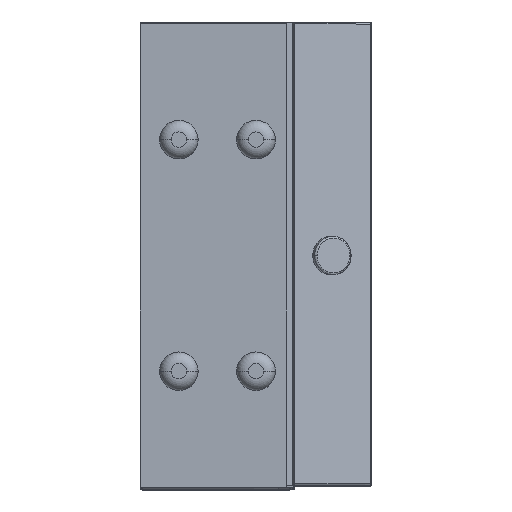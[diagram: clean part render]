
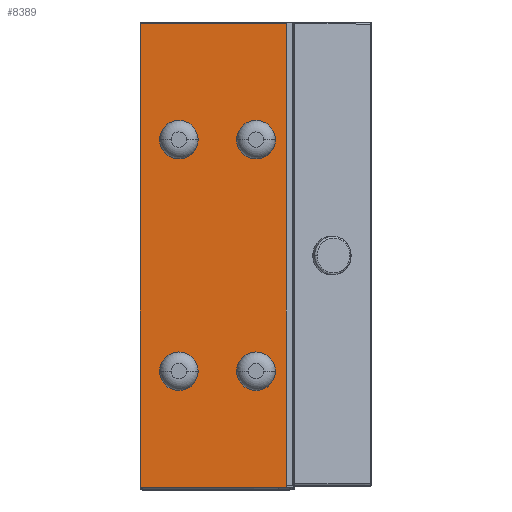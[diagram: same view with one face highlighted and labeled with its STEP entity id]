
A CAD part, top view. The second image highlights one B-rep face of the part: STEP entity #8389.
In plain terms, the highlighted planar face has unit normal (0, 0, 1).
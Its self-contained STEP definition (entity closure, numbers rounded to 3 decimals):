
#148 = CARTESIAN_POINT ( 'NONE',  ( -30., -60., 77.5 ) ) ;
#343 = DIRECTION ( 'NONE',  ( 0., 0., -1. ) ) ;
#643 = CARTESIAN_POINT ( 'NONE',  ( 0., 30., 77.5 ) ) ;
#975 = CARTESIAN_POINT ( 'NONE',  ( -5., -30., 77.5 ) ) ;
#1060 = CARTESIAN_POINT ( 'NONE',  ( 5., -30., 77.5 ) ) ;
#1975 = DIRECTION ( 'NONE',  ( 0., 0., -1. ) ) ;
#2260 = ORIENTED_EDGE ( 'NONE', *, *, #15525, .T. ) ;
#2525 = VECTOR ( 'NONE', #19966, 1000. ) ;
#2572 = VERTEX_POINT ( 'NONE', #1060 ) ;
#2748 = EDGE_CURVE ( 'NONE', #4437, #24792, #27783, .T. ) ;
#2861 = ORIENTED_EDGE ( 'NONE', *, *, #12174, .T. ) ;
#3022 = ORIENTED_EDGE ( 'NONE', *, *, #14506, .T. ) ;
#3500 = CARTESIAN_POINT ( 'NONE',  ( -30., -60., 77.5 ) ) ;
#3900 = EDGE_CURVE ( 'NONE', #25976, #2572, #34935, .T. ) ;
#4385 = CIRCLE ( 'NONE', #30800, 5. ) ;
#4437 = VERTEX_POINT ( 'NONE', #6007 ) ;
#4451 = DIRECTION ( 'NONE',  ( 1., 0., 0. ) ) ;
#4459 = CARTESIAN_POINT ( 'NONE',  ( -20., 30., 77.5 ) ) ;
#5237 = VERTEX_POINT ( 'NONE', #148 ) ;
#5973 = VECTOR ( 'NONE', #34574, 1000. ) ;
#6007 = CARTESIAN_POINT ( 'NONE',  ( -5., 30., 77.5 ) ) ;
#6018 = DIRECTION ( 'NONE',  ( 1., 0., 0. ) ) ;
#6779 = VERTEX_POINT ( 'NONE', #7215 ) ;
#6857 = CARTESIAN_POINT ( 'NONE',  ( 7.863, -60., 77.5 ) ) ;
#7215 = CARTESIAN_POINT ( 'NONE',  ( -15., 30., 77.5 ) ) ;
#7237 = DIRECTION ( 'NONE',  ( 1., 0., 0. ) ) ;
#7314 = AXIS2_PLACEMENT_3D ( 'NONE', #25345, #9124, #7237 ) ;
#7485 = ORIENTED_EDGE ( 'NONE', *, *, #32486, .F. ) ;
#7581 = CARTESIAN_POINT ( 'NONE',  ( -25., -30., 77.5 ) ) ;
#7741 = DIRECTION ( 'NONE',  ( 0., 0., -1. ) ) ;
#7798 = DIRECTION ( 'NONE',  ( 1., 0., 0. ) ) ;
#8389 = ADVANCED_FACE ( 'NONE', ( #13892, #33856, #8881, #29642, #22454 ), #23457, .T. ) ;
#8736 = CIRCLE ( 'NONE', #27858, 5. ) ;
#8881 = FACE_BOUND ( 'NONE', #34462, .T. ) ;
#8973 = EDGE_CURVE ( 'NONE', #31605, #26402, #17683, .T. ) ;
#9124 = DIRECTION ( 'NONE',  ( 0., 0., 1. ) ) ;
#9130 = VERTEX_POINT ( 'NONE', #16484 ) ;
#9460 = ORIENTED_EDGE ( 'NONE', *, *, #3900, .T. ) ;
#9735 = VERTEX_POINT ( 'NONE', #13198 ) ;
#9761 = AXIS2_PLACEMENT_3D ( 'NONE', #4459, #1975, #31818 ) ;
#9812 = CARTESIAN_POINT ( 'NONE',  ( 13., -60., 77.5 ) ) ;
#10017 = CARTESIAN_POINT ( 'NONE',  ( -20., -30., 77.5 ) ) ;
#10841 = AXIS2_PLACEMENT_3D ( 'NONE', #30077, #343, #6018 ) ;
#11004 = CIRCLE ( 'NONE', #9761, 5. ) ;
#11023 = DIRECTION ( 'NONE',  ( 1., 0., 0. ) ) ;
#12174 = EDGE_CURVE ( 'NONE', #9130, #26654, #35084, .T. ) ;
#12552 = DIRECTION ( 'NONE',  ( 1., 0., 0. ) ) ;
#12947 = CARTESIAN_POINT ( 'NONE',  ( 0., 30., 77.5 ) ) ;
#13018 = EDGE_LOOP ( 'NONE', ( #29341, #33698 ) ) ;
#13198 = CARTESIAN_POINT ( 'NONE',  ( -25., 30., 77.5 ) ) ;
#13892 = FACE_OUTER_BOUND ( 'NONE', #30327, .T. ) ;
#14375 = DIRECTION ( 'NONE',  ( 1., 0., 0. ) ) ;
#14506 = EDGE_CURVE ( 'NONE', #9735, #6779, #8736, .T. ) ;
#14848 = LINE ( 'NONE', #9812, #5973 ) ;
#15525 = EDGE_CURVE ( 'NONE', #26654, #9130, #4385, .T. ) ;
#15620 = DIRECTION ( 'NONE',  ( 0., -1., 0. ) ) ;
#16011 = DIRECTION ( 'NONE',  ( -1., 0., 0. ) ) ;
#16484 = CARTESIAN_POINT ( 'NONE',  ( -15., -30., 77.5 ) ) ;
#16754 = CARTESIAN_POINT ( 'NONE',  ( -20., 30., 77.5 ) ) ;
#17678 = EDGE_CURVE ( 'NONE', #2572, #25976, #33605, .T. ) ;
#17683 = LINE ( 'NONE', #27069, #29577 ) ;
#18102 = CARTESIAN_POINT ( 'NONE',  ( 0., -30., 77.5 ) ) ;
#18235 = VECTOR ( 'NONE', #15620, 1000. ) ;
#18752 = DIRECTION ( 'NONE',  ( 0., 0., -1. ) ) ;
#19398 = VERTEX_POINT ( 'NONE', #6857 ) ;
#19564 = DIRECTION ( 'NONE',  ( 0., 0., -1. ) ) ;
#19966 = DIRECTION ( 'NONE',  ( 0., 1., 0. ) ) ;
#21364 = CARTESIAN_POINT ( 'NONE',  ( 7.863, 677.189, 77.5 ) ) ;
#21603 = LINE ( 'NONE', #3500, #2525 ) ;
#21712 = AXIS2_PLACEMENT_3D ( 'NONE', #18102, #7741, #12552 ) ;
#21843 = ORIENTED_EDGE ( 'NONE', *, *, #31470, .F. ) ;
#22454 = FACE_BOUND ( 'NONE', #13018, .T. ) ;
#22482 = DIRECTION ( 'NONE',  ( 0., 0., -1. ) ) ;
#23132 = EDGE_CURVE ( 'NONE', #31605, #19398, #25482, .T. ) ;
#23457 = PLANE ( 'NONE',  #7314 ) ;
#23662 = DIRECTION ( 'NONE',  ( 0., 0., -1. ) ) ;
#23976 = ORIENTED_EDGE ( 'NONE', *, *, #17678, .T. ) ;
#24792 = VERTEX_POINT ( 'NONE', #29833 ) ;
#24830 = ORIENTED_EDGE ( 'NONE', *, *, #8973, .T. ) ;
#24848 = AXIS2_PLACEMENT_3D ( 'NONE', #10017, #23662, #4451 ) ;
#25046 = DIRECTION ( 'NONE',  ( 1., 0., 0. ) ) ;
#25345 = CARTESIAN_POINT ( 'NONE',  ( 13., -60., 77.5 ) ) ;
#25482 = LINE ( 'NONE', #21364, #18235 ) ;
#25976 = VERTEX_POINT ( 'NONE', #975 ) ;
#26402 = VERTEX_POINT ( 'NONE', #32902 ) ;
#26654 = VERTEX_POINT ( 'NONE', #7581 ) ;
#27069 = CARTESIAN_POINT ( 'NONE',  ( 13., 60., 77.5 ) ) ;
#27415 = CARTESIAN_POINT ( 'NONE',  ( -20., -30., 77.5 ) ) ;
#27783 = CIRCLE ( 'NONE', #34632, 5. ) ;
#27858 = AXIS2_PLACEMENT_3D ( 'NONE', #16754, #22482, #14375 ) ;
#28106 = ORIENTED_EDGE ( 'NONE', *, *, #23132, .F. ) ;
#29112 = EDGE_CURVE ( 'NONE', #24792, #4437, #34967, .T. ) ;
#29341 = ORIENTED_EDGE ( 'NONE', *, *, #29112, .T. ) ;
#29551 = EDGE_LOOP ( 'NONE', ( #23976, #9460 ) ) ;
#29577 = VECTOR ( 'NONE', #16011, 1000. ) ;
#29642 = FACE_BOUND ( 'NONE', #31436, .T. ) ;
#29833 = CARTESIAN_POINT ( 'NONE',  ( 5., 30., 77.5 ) ) ;
#30077 = CARTESIAN_POINT ( 'NONE',  ( 0., -30., 77.5 ) ) ;
#30327 = EDGE_LOOP ( 'NONE', ( #28106, #24830, #7485, #21843 ) ) ;
#30800 = AXIS2_PLACEMENT_3D ( 'NONE', #27415, #34749, #11023 ) ;
#31436 = EDGE_LOOP ( 'NONE', ( #2861, #2260 ) ) ;
#31470 = EDGE_CURVE ( 'NONE', #19398, #5237, #14848, .T. ) ;
#31605 = VERTEX_POINT ( 'NONE', #35034 ) ;
#31818 = DIRECTION ( 'NONE',  ( 1., 0., 0. ) ) ;
#31995 = EDGE_CURVE ( 'NONE', #6779, #9735, #11004, .T. ) ;
#32486 = EDGE_CURVE ( 'NONE', #5237, #26402, #21603, .T. ) ;
#32902 = CARTESIAN_POINT ( 'NONE',  ( -30., 60., 77.5 ) ) ;
#33177 = ORIENTED_EDGE ( 'NONE', *, *, #31995, .T. ) ;
#33605 = CIRCLE ( 'NONE', #10841, 5. ) ;
#33698 = ORIENTED_EDGE ( 'NONE', *, *, #2748, .T. ) ;
#33856 = FACE_BOUND ( 'NONE', #29551, .T. ) ;
#34217 = AXIS2_PLACEMENT_3D ( 'NONE', #12947, #18752, #7798 ) ;
#34462 = EDGE_LOOP ( 'NONE', ( #33177, #3022 ) ) ;
#34574 = DIRECTION ( 'NONE',  ( -1., 0., 0. ) ) ;
#34632 = AXIS2_PLACEMENT_3D ( 'NONE', #643, #19564, #25046 ) ;
#34749 = DIRECTION ( 'NONE',  ( 0., 0., -1. ) ) ;
#34935 = CIRCLE ( 'NONE', #21712, 5. ) ;
#34967 = CIRCLE ( 'NONE', #34217, 5. ) ;
#35034 = CARTESIAN_POINT ( 'NONE',  ( 7.863, 60., 77.5 ) ) ;
#35084 = CIRCLE ( 'NONE', #24848, 5. ) ;
